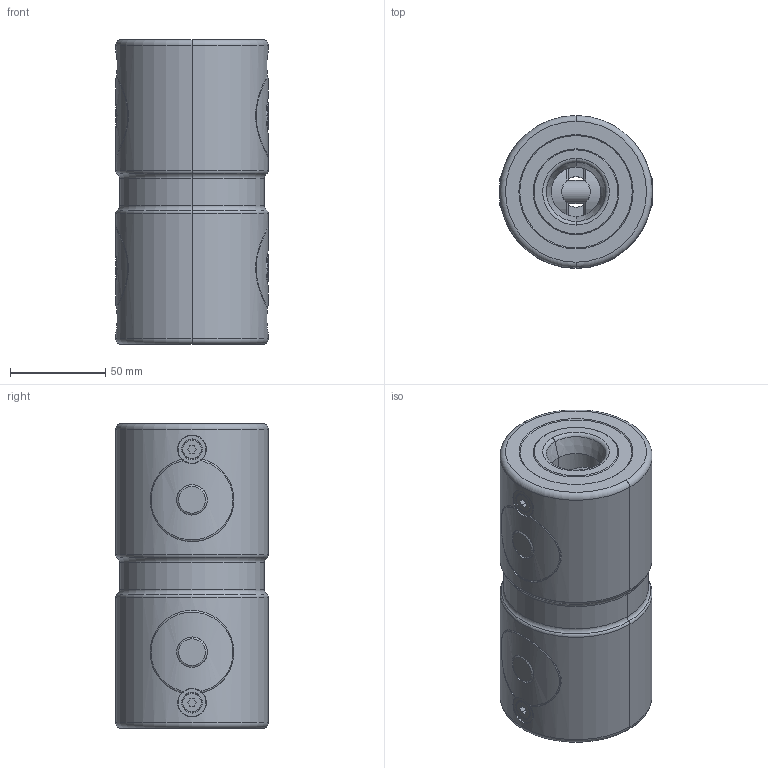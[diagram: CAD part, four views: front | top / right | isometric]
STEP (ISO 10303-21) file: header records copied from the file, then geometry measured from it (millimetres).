
FILE_DESCRIPTION (( 'STEP AP203' ), '1' );
FILE_NAME ('cp151-16160.STEP', '2021-10-25T23:52:45', ( '' ), ( '' ), 'SwSTEP 2.0', 'SolidWorks 2020', '' );
FILE_SCHEMA (( 'CONFIG_CONTROL_DESIGN' ));
Length unit declared in the file: millimetre
Products named in the file (8): cp151-16160_01; cp151-16160_05; cp151-16160_06; cp151-16160_03; cp151-16160_07; cp151-16160_04; cp151-16160_02; cp151-16160
Assembly tree (7 placements, depth 2):
  cp151-16160
    cp151-16160_01
    cp151-16160_02
    cp151-16160_03
    cp151-16160_04
    cp151-16160_05
    cp151-16160_06
    cp151-16160_07
Bounding box: 80 x 80 x 160 mm (x, y, z)
Volume: 716790.5 mm3; surface area: 113407.7 mm2
Topology: 7 solids, 7 shells, 374 faces, 840 edges, 516 vertices
Faces by surface type: cylinder 124, cone 100, plane 98, torus 44, bspline 8
Entity records: 16294 total; most frequent: CARTESIAN_POINT 7076, DIRECTION 1828, ORIENTED_EDGE 1680, EDGE_CURVE 840, AXIS2_PLACEMENT_3D 752, VERTEX_POINT 516, EDGE_LOOP 428, CIRCLE 376
